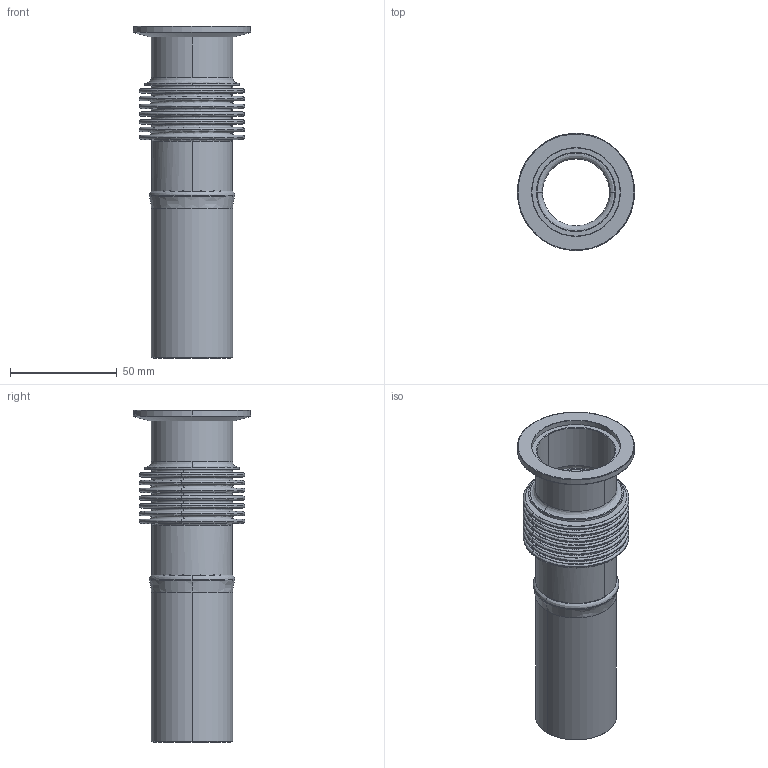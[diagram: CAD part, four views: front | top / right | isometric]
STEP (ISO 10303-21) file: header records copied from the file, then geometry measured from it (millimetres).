
FILE_DESCRIPTION (( 'STEP AP203' ), '1' );
FILE_NAME ('211076.stp', '2018-05-09T19:39:42', ( '' ), ( '' ), 'SwSTEP 2.0', 'SolidWorks 2012', '' );
FILE_SCHEMA (( 'CONFIG_CONTROL_DESIGN' ));
Products named in the file (1): 211076
Bounding box: 54.86 x 54.86 x 155.57 mm (x, y, z)
Volume: 33035.7 mm3; surface area: 60382.8 mm2
Topology: 1 solids, 1 shells, 458 faces, 1128 edges, 733 vertices
Faces by surface type: bspline 244, plane 149, cylinder 55, cone 10
Entity records: 43963 total; most frequent: CARTESIAN_POINT 34729, ORIENTED_EDGE 2256, DIRECTION 1327, EDGE_CURVE 1128, VERTEX_POINT 733, EDGE_LOOP 521, AXIS2_PLACEMENT_3D 503, ADVANCED_FACE 458
